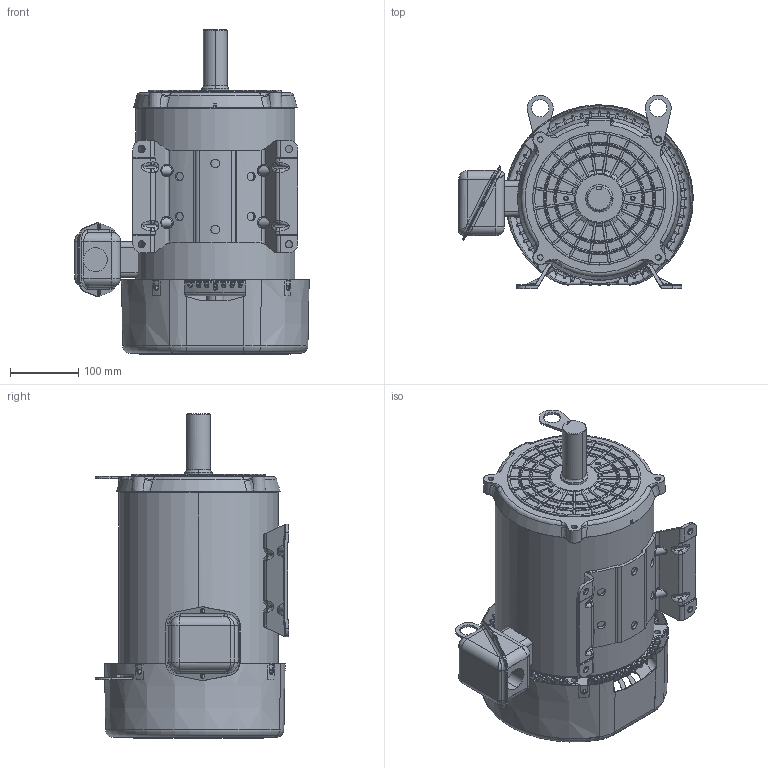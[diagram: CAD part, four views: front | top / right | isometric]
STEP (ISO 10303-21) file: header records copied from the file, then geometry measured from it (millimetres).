
FILE_DESCRIPTION((''),'2;1');
FILE_NAME('215S_ASM_ASM','2014-07-09T',('NMC779F'),('Nidec Motor Corporation'),'PRO/ENGINEER BY PARAMETRIC TECHNOLOGY CORPORATION, 2013150','PRO/ENGINEER BY PARAMETRIC TECHNOLOGY CORPORATION, 2013150','');
FILE_SCHEMA(('CONFIG_CONTROL_DESIGN'));
Length unit declared in the file: inch
Products named in the file (16): 0394523-FR_AF0; 0391894-BKT_AF0; 0298010_AF0; 0391895_ASM; 0903636-BKT_AF0; 0298013_AF0; 1001106_ASM; 0345787; 0396130; 0392698; 0390920; 0390408; 0390417; 0376890; 0951821; 215S_ASM_ASM
Assembly tree (16 placements, depth 3):
  215S_ASM_ASM
    0394523-FR_AF0
    0391895_ASM
      0391894-BKT_AF0
      0298010_AF0
    1001106_ASM
      0903636-BKT_AF0
      0298013_AF0
    0345787
    0396130
    0392698
    0390920
    0390408
    0390417
    0376890  x2
    0951821
Bounding box: 343.56 x 283.72 x 475.42 mm (x, y, z)
Volume: 2346799.9 mm3; surface area: 1201195.3 mm2
Topology: 16 solids, 16 shells, 3907 faces, 9575 edges, 5673 vertices
Faces by surface type: bspline 1374, cylinder 922, plane 704, torus 432, cone 401, sphere 74
Entity records: 171947 total; most frequent: CARTESIAN_POINT 90087, ORIENTED_EDGE 18964, DIRECTION 14773, EDGE_CURVE 9482, AXIS2_PLACEMENT_3D 6215, VERTEX_POINT 5657, EDGE_LOOP 4089, FACE_OUTER_BOUND 3897
